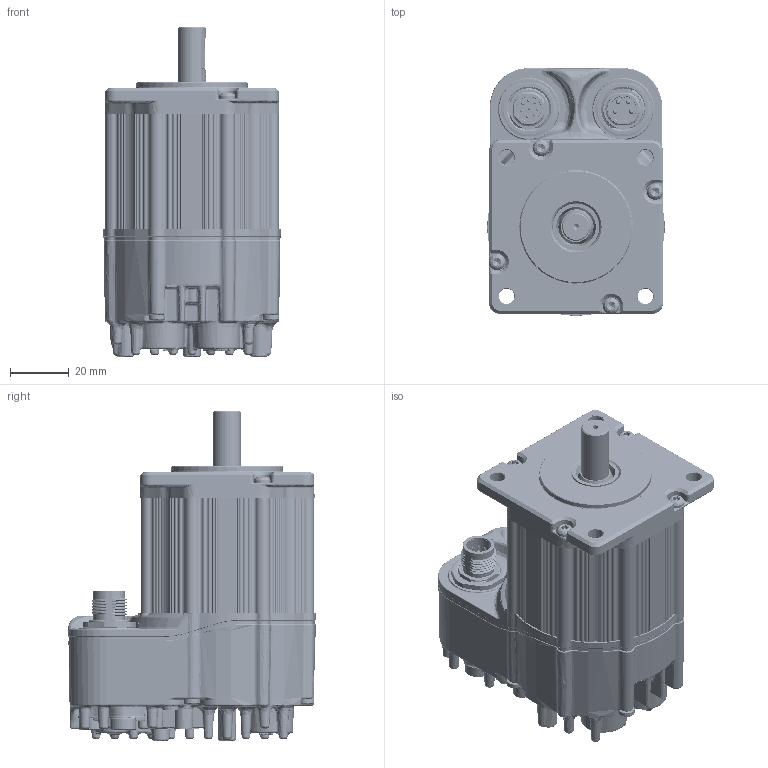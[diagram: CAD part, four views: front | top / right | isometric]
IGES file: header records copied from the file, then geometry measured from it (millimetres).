
Start section: SolidWorks IGES file using analytic representation for surfaces
Global section: file name: C:\TeknicPDM\EtherPath CPM-S\EtherPath CPM-S Customer Files\CPM-S Customer Models\CPMS 231x.igs; native system: SolidWorks 2020; preprocessor: SolidWorks 2020; author: mike_berezny; date: 241007.171354; units: inch
Bounding box: 60.26 x 84.12 x 111.81 mm (x, y, z)
Surface area: 111656 mm2 (no closed solid volume)
Topology: 0 solids, 0 shells, 11887 faces, 105586 edges, 104838 vertices
Faces by surface type: bspline 6200, revolution 5687
